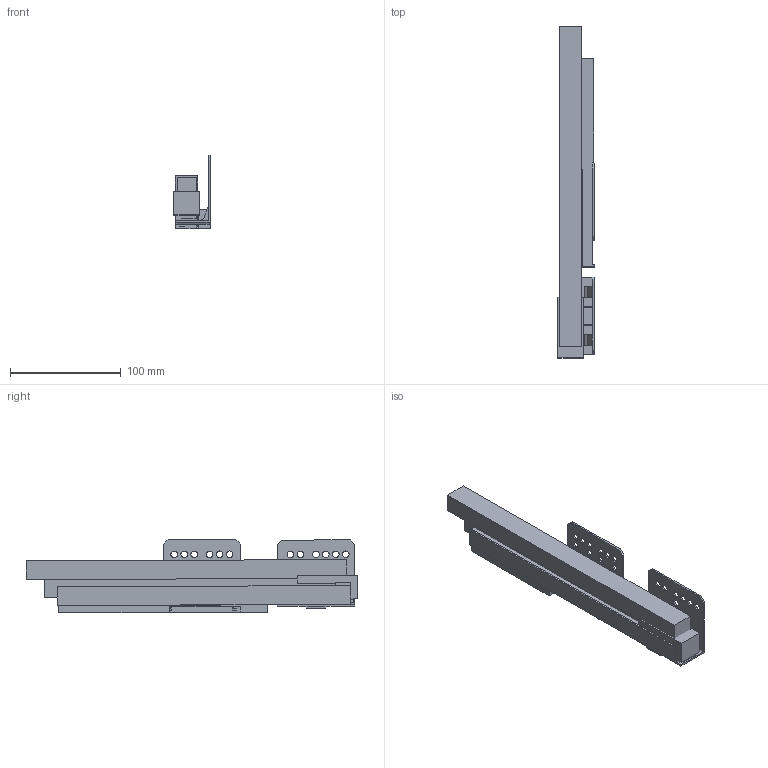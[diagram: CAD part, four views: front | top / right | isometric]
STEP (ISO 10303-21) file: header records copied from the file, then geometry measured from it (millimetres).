
FILE_DESCRIPTION (( 'STEP AP214' ), '1' );
FILE_NAME ('_IMOS Dynamic-XP VA 40kg NL300 RE.step', '2010-07-07T08:06:31', ( 'grass' ), ( '' ), 'SwSTEP 2.0', 'SolidWorks 2010', '' );
FILE_SCHEMA (( 'AUTOMOTIVE_DESIGN' ));
Length unit declared in the file: millimetre
Products named in the file (1): _IMOS Dynamic-XP VA 40kg NL300 RE
Bounding box: 32.79 x 299.89 x 66.67 mm (x, y, z)
Volume: 311347.4 mm3; surface area: 116323.5 mm2
Topology: 7 solids, 7 shells, 151 faces, 411 edges, 274 vertices
Faces by surface type: plane 111, cylinder 40
Entity records: 4913 total; most frequent: CARTESIAN_POINT 837, ORIENTED_EDGE 822, DIRECTION 795, EDGE_CURVE 411, VECTOR 331, LINE 331, VERTEX_POINT 274, AXIS2_PLACEMENT_3D 232
